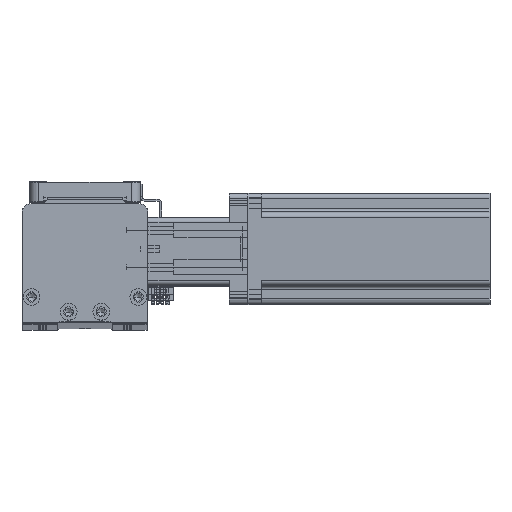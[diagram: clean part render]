
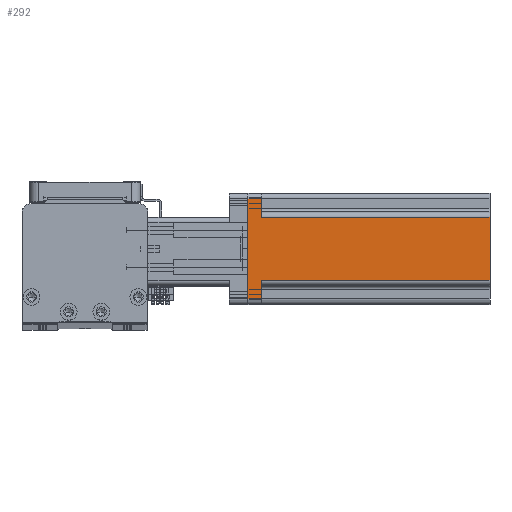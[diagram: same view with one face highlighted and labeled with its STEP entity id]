
A CAD part, top view. The second image highlights one B-rep face of the part: STEP entity #292.
In plain terms, the highlighted planar face has unit normal (0, 0, 1) as drawn and (1, 0, 0) by its records, which use the part's own axes.
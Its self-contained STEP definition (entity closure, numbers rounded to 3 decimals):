
#292 = ADVANCED_FACE ( 'NONE', ( #8624 ), #32375, .F. ) ;
#810 = DIRECTION ( 'NONE',  ( 0., -1., 0. ) ) ;
#930 = EDGE_CURVE ( 'NONE', #9831, #3519, #50520, .T. ) ;
#3519 = VERTEX_POINT ( 'NONE', #11436 ) ;
#4138 = VECTOR ( 'NONE', #810, 1000. ) ;
#4151 = ORIENTED_EDGE ( 'NONE', *, *, #42751, .T. ) ;
#4972 = DIRECTION ( 'NONE',  ( -1., 0., 0. ) ) ;
#7413 = LINE ( 'NONE', #50393, #47158 ) ;
#7686 = EDGE_CURVE ( 'NONE', #43270, #9831, #7413, .T. ) ;
#8624 = FACE_OUTER_BOUND ( 'NONE', #30995, .T. ) ;
#9831 = VERTEX_POINT ( 'NONE', #22547 ) ;
#10205 = DIRECTION ( 'NONE',  ( 0., 1., 0. ) ) ;
#10795 = DIRECTION ( 'NONE',  ( 0., 1., 0. ) ) ;
#11436 = CARTESIAN_POINT ( 'NONE',  ( 30., 27., 7.5 ) ) ;
#12443 = VERTEX_POINT ( 'NONE', #36363 ) ;
#15417 = LINE ( 'NONE', #42157, #36578 ) ;
#15679 = CARTESIAN_POINT ( 'NONE',  ( 30., -27., 0. ) ) ;
#16797 = ORIENTED_EDGE ( 'NONE', *, *, #23347, .T. ) ;
#17065 = DIRECTION ( 'NONE',  ( 0., 0., -1. ) ) ;
#17212 = EDGE_CURVE ( 'NONE', #48846, #34770, #37979, .T. ) ;
#17462 = EDGE_CURVE ( 'NONE', #48846, #35345, #50931, .T. ) ;
#18541 = CARTESIAN_POINT ( 'NONE',  ( 30., 17., 130.7 ) ) ;
#18624 = CARTESIAN_POINT ( 'NONE',  ( 30., 17., 130.7 ) ) ;
#18752 = ORIENTED_EDGE ( 'NONE', *, *, #17212, .T. ) ;
#18985 = EDGE_CURVE ( 'NONE', #34770, #12443, #25212, .T. ) ;
#19444 = VECTOR ( 'NONE', #26523, 1000. ) ;
#19998 = DIRECTION ( 'NONE',  ( 0., 0., 1. ) ) ;
#20237 = DIRECTION ( 'NONE',  ( 0., 0., -1. ) ) ;
#21290 = EDGE_CURVE ( 'NONE', #30330, #3519, #15417, .T. ) ;
#22547 = CARTESIAN_POINT ( 'NONE',  ( 30., 27., 0. ) ) ;
#23347 = EDGE_CURVE ( 'NONE', #30330, #35345, #30008, .T. ) ;
#23962 = CARTESIAN_POINT ( 'NONE',  ( 30., 27., 130.7 ) ) ;
#23997 = ORIENTED_EDGE ( 'NONE', *, *, #7686, .T. ) ;
#25212 = LINE ( 'NONE', #28570, #4138 ) ;
#25797 = AXIS2_PLACEMENT_3D ( 'NONE', #28752, #4972, #32712 ) ;
#26523 = DIRECTION ( 'NONE',  ( 0., 0., 1. ) ) ;
#28205 = ORIENTED_EDGE ( 'NONE', *, *, #930, .T. ) ;
#28570 = CARTESIAN_POINT ( 'NONE',  ( 30., -30., 7.5 ) ) ;
#28752 = CARTESIAN_POINT ( 'NONE',  ( 30., -30., 130.7 ) ) ;
#30008 = LINE ( 'NONE', #18541, #19444 ) ;
#30330 = VERTEX_POINT ( 'NONE', #35645 ) ;
#30995 = EDGE_LOOP ( 'NONE', ( #31320, #18752, #39167, #4151, #23997, #28205, #42831, #16797 ) ) ;
#31320 = ORIENTED_EDGE ( 'NONE', *, *, #17462, .F. ) ;
#32375 = PLANE ( 'NONE',  #25797 ) ;
#32712 = DIRECTION ( 'NONE',  ( 0., 0., 1. ) ) ;
#34770 = VERTEX_POINT ( 'NONE', #50956 ) ;
#35345 = VERTEX_POINT ( 'NONE', #18624 ) ;
#35645 = CARTESIAN_POINT ( 'NONE',  ( 30., 17., 7.5 ) ) ;
#36363 = CARTESIAN_POINT ( 'NONE',  ( 30., -27., 7.5 ) ) ;
#36578 = VECTOR ( 'NONE', #10205, 1000. ) ;
#36728 = CARTESIAN_POINT ( 'NONE',  ( 30., -17., 130.7 ) ) ;
#36729 = VECTOR ( 'NONE', #17065, 1000. ) ;
#37979 = LINE ( 'NONE', #40891, #36729 ) ;
#38459 = DIRECTION ( 'NONE',  ( 0., 1., 0. ) ) ;
#38754 = VECTOR ( 'NONE', #19998, 1000. ) ;
#39167 = ORIENTED_EDGE ( 'NONE', *, *, #18985, .T. ) ;
#40891 = CARTESIAN_POINT ( 'NONE',  ( 30., -17., 7.5 ) ) ;
#41597 = VECTOR ( 'NONE', #20237, 1000. ) ;
#42157 = CARTESIAN_POINT ( 'NONE',  ( 30., 30., 7.5 ) ) ;
#42751 = EDGE_CURVE ( 'NONE', #12443, #43270, #42843, .T. ) ;
#42831 = ORIENTED_EDGE ( 'NONE', *, *, #21290, .F. ) ;
#42843 = LINE ( 'NONE', #48032, #41597 ) ;
#43270 = VERTEX_POINT ( 'NONE', #15679 ) ;
#46233 = CARTESIAN_POINT ( 'NONE',  ( 30., -30., 130.7 ) ) ;
#47158 = VECTOR ( 'NONE', #10795, 1000. ) ;
#48032 = CARTESIAN_POINT ( 'NONE',  ( 30., -27., 130.7 ) ) ;
#48846 = VERTEX_POINT ( 'NONE', #36728 ) ;
#49702 = VECTOR ( 'NONE', #38459, 1000. ) ;
#50393 = CARTESIAN_POINT ( 'NONE',  ( 30., -30., 0. ) ) ;
#50520 = LINE ( 'NONE', #23962, #38754 ) ;
#50931 = LINE ( 'NONE', #46233, #49702 ) ;
#50956 = CARTESIAN_POINT ( 'NONE',  ( 30., -17., 7.5 ) ) ;
